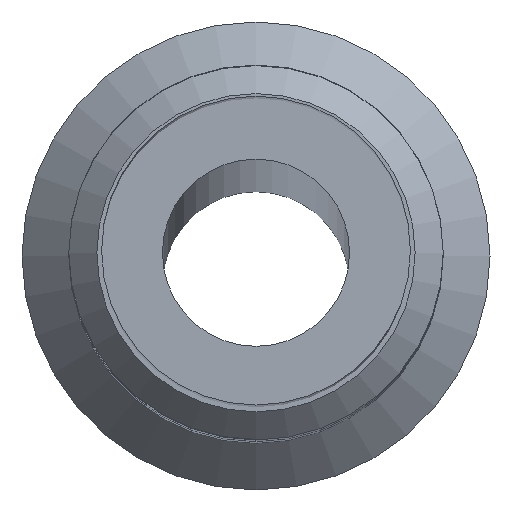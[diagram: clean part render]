
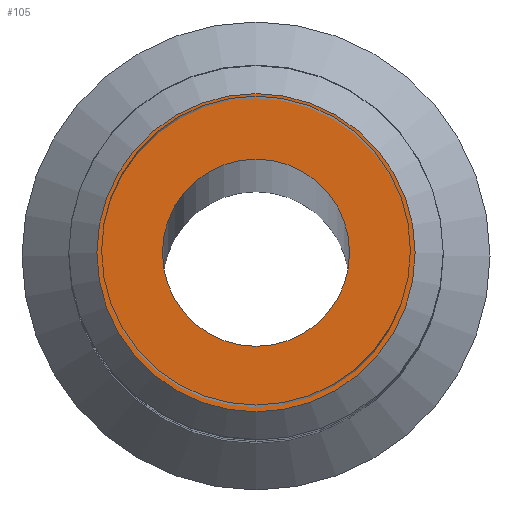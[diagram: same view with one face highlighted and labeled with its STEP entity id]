
A CAD part, top view. The second image highlights one B-rep face of the part: STEP entity #105.
In plain terms, the highlighted planar face has unit normal (0, 0, 1).
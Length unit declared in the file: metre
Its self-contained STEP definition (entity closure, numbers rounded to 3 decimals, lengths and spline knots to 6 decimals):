
#105=ADVANCED_FACE('',(#211,#212),#213,.T.);
#211=FACE_OUTER_BOUND('',#321,.T.);
#212=FACE_BOUND('',#322,.T.);
#213=PLANE('',#323);
#321=EDGE_LOOP('',(#462));
#322=EDGE_LOOP('',(#463));
#323=AXIS2_PLACEMENT_3D('',#464,#465,#466);
#462=ORIENTED_EDGE('',*,*,#545,.T.);
#463=ORIENTED_EDGE('',*,*,#510,.T.);
#464=CARTESIAN_POINT('',(0.0,0.,0.02));
#465=DIRECTION('',(0.0,0.0,1.0));
#466=DIRECTION('',(1.0,0.0,-0.0));
#510=EDGE_CURVE('',#570,#570,#571,.F.);
#545=EDGE_CURVE('',#622,#622,#623,.T.);
#570=VERTEX_POINT('',#658);
#571=CIRCLE('',#659,0.001);
#622=VERTEX_POINT('',#718);
#623=CIRCLE('',#719,0.0017);
#658=CARTESIAN_POINT('',(0.001,0.,0.02));
#659=AXIS2_PLACEMENT_3D('',#756,#757,#758);
#718=CARTESIAN_POINT('',(0.0017,0.,0.02));
#719=AXIS2_PLACEMENT_3D('',#803,#804,#805);
#756=CARTESIAN_POINT('',(0.0,0.,0.02));
#757=DIRECTION('',(0.0,0.0,1.0));
#758=DIRECTION('',(1.0,0.0,-0.0));
#803=CARTESIAN_POINT('',(0.0,0.,0.02));
#804=DIRECTION('',(0.0,0.0,1.0));
#805=DIRECTION('',(1.0,0.0,-0.0));
